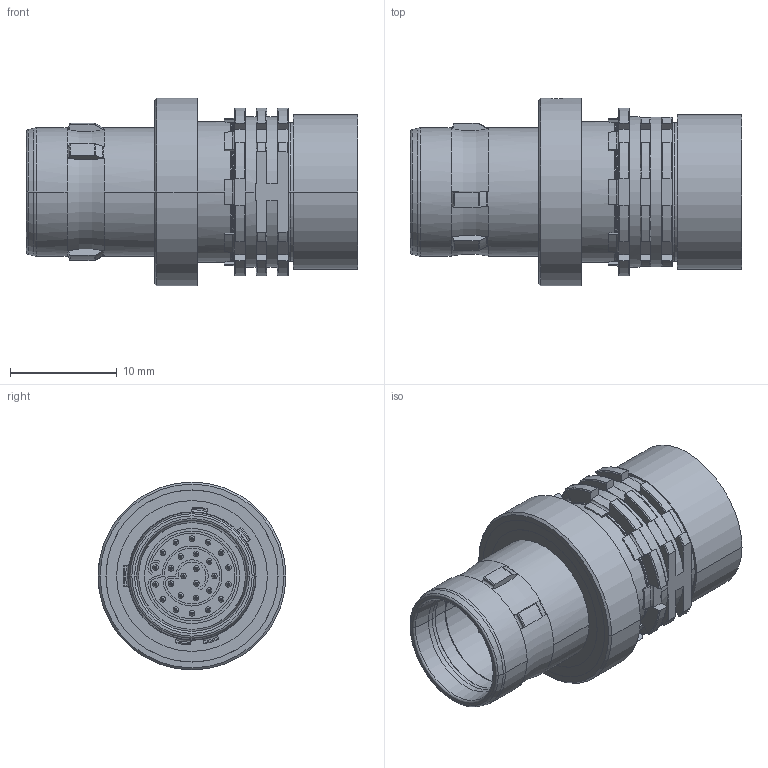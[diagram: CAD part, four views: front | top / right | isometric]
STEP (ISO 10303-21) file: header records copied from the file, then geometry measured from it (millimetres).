
FILE_DESCRIPTION((''),'2;1');
FILE_NAME('00050236_SW0001','2017-06-22T',('prock'),(''),'PRO/ENGINEER BY PARAMETRIC TECHNOLOGY CORPORATION, 2016360','PRO/ENGINEER BY PARAMETRIC TECHNOLOGY CORPORATION, 2016360','');
FILE_SCHEMA(('AUTOMOTIVE_DESIGN { 1 0 10303 214 1 1 1 1 }'));
Products named in the file (1): 00050236_SW0001
Bounding box: 31 x 17.6 x 17.6 mm (x, y, z)
Volume: 2906.6 mm3; surface area: 6392.8 mm2
Topology: 2 solids, 2 shells, 1352 faces, 3305 edges, 1986 vertices
Faces by surface type: cylinder 569, plane 367, cone 173, torus 139, bspline 52, sphere 52
Entity records: 58584 total; most frequent: CARTESIAN_POINT 17136, DIRECTION 7034, ORIENTED_EDGE 6402, EDGE_CURVE 3201, AXIS2_PLACEMENT_3D 2871, VERTEX_POINT 1986, CIRCLE 1571, EDGE_LOOP 1505
